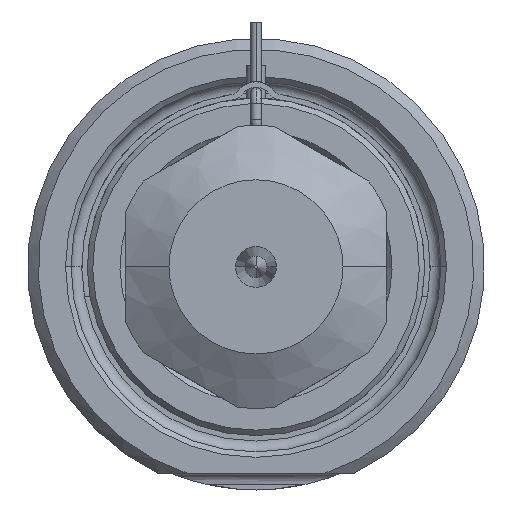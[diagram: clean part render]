
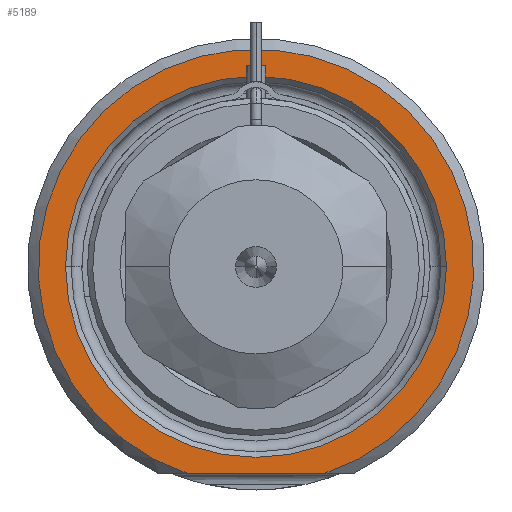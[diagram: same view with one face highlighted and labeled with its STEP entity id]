
A CAD part, front view. The second image highlights one B-rep face of the part: STEP entity #5189.
In plain terms, the highlighted planar face has unit normal (0, -1, 0).
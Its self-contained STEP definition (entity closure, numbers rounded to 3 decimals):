
#1335=CARTESIAN_POINT('',(0.,0.,0.));
#1336=DIRECTION('',(0.,-1.,0.));
#1337=DIRECTION('',(0.312,0.,-0.95));
#1338=AXIS2_PLACEMENT_3D('',#1335,#1336,#1337);
#1359=DIRECTION('',(1.,0.,0.));
#1360=VECTOR('',#1359,12.49);
#1361=CARTESIAN_POINT('',(-6.245,0.,-19.));
#1362=LINE('',#1361,#1360);
#1363=CARTESIAN_POINT('',(0.,0.,0.));
#1364=DIRECTION('',(0.,1.,0.));
#1365=DIRECTION('',(-1.,0.,0.));
#1366=AXIS2_PLACEMENT_3D('',#1363,#1364,#1365);
#1368=CARTESIAN_POINT('',(0.,0.,0.));
#1369=DIRECTION('',(0.,1.,0.));
#1370=DIRECTION('',(1.,0.,0.));
#1371=AXIS2_PLACEMENT_3D('',#1368,#1369,#1370);
#3401=CARTESIAN_POINT('',(-17.5,0.,0.));
#3402=CARTESIAN_POINT('',(17.5,0.,0.));
#3403=VERTEX_POINT('',#3401);
#3404=VERTEX_POINT('',#3402);
#3459=CARTESIAN_POINT('',(-6.245,0.,-19.));
#3460=CARTESIAN_POINT('',(6.245,0.,-19.));
#3461=VERTEX_POINT('',#3459);
#3462=VERTEX_POINT('',#3460);
#5174=CARTESIAN_POINT('',(0.,0.,0.));
#5175=DIRECTION('',(0.,-1.,0.));
#5176=DIRECTION('',(1.,0.,0.));
#5177=AXIS2_PLACEMENT_3D('',#5174,#5175,#5176);
#5178=PLANE('',#5177);
#5179=ORIENTED_EDGE('',*,*,#5106,.F.);
#5180=ORIENTED_EDGE('',*,*,#5166,.F.);
#5181=EDGE_LOOP('',(#5179,#5180));
#5182=FACE_OUTER_BOUND('',#5181,.F.);
#5184=ORIENTED_EDGE('',*,*,#5183,.F.);
#5186=ORIENTED_EDGE('',*,*,#5185,.F.);
#5187=EDGE_LOOP('',(#5184,#5186));
#5188=FACE_BOUND('',#5187,.F.);
#5189=ADVANCED_FACE('',(#5182,#5188),#5178,.T.);
#1339=CIRCLE('',#1338,20.);
#1367=CIRCLE('',#1366,17.5);
#1372=CIRCLE('',#1371,17.5);
#5106=EDGE_CURVE('',#3461,#3462,#1362,.T.);
#5166=EDGE_CURVE('',#3462,#3461,#1339,.T.);
#5183=EDGE_CURVE('',#3403,#3404,#1367,.T.);
#5185=EDGE_CURVE('',#3404,#3403,#1372,.T.);
